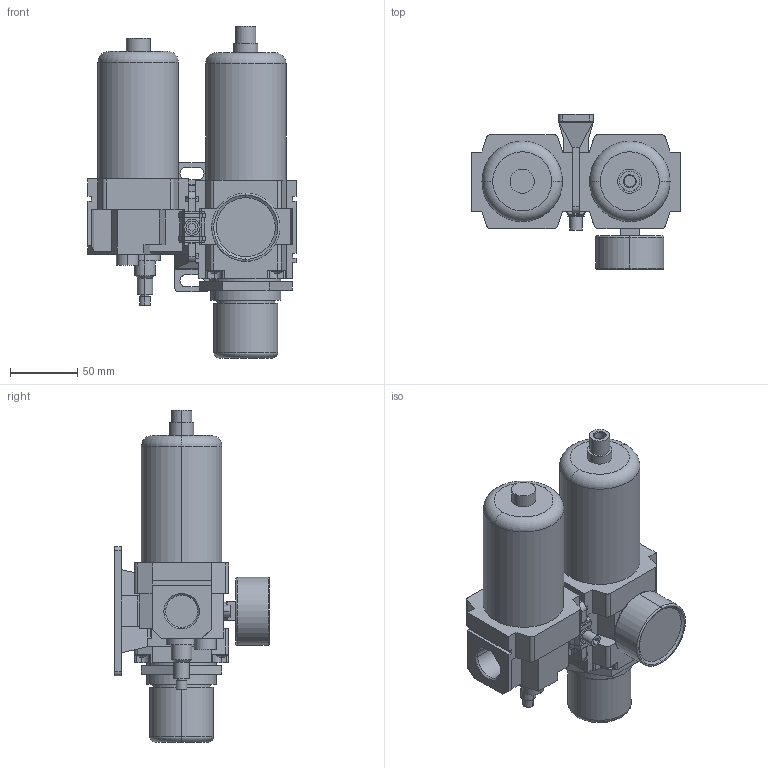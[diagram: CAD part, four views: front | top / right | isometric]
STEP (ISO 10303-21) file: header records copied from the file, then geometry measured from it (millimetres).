
FILE_DESCRIPTION (( 'STEP AP203' ), '1' );
FILE_NAME ('FRL400-06M-D.STEP', '2021-06-30T18:19:45', ( '' ), ( '' ), 'SwSTEP 2.0', 'SolidWorks 2019', '' );
FILE_SCHEMA (( 'CONFIG_CONTROL_DESIGN' ));
Length unit declared in the file: millimetre
Products named in the file (4): ST-400 - Copia; FRL400-06M-D; FR400-06M-D; L400-06
Assembly tree (3 placements, depth 2):
  FRL400-06M-D
    FR400-06M-D
    ST-400 - Copia
    L400-06
Bounding box: 155.2 x 115.5 x 247.5 mm (x, y, z)
Volume: 1262754.6 mm3; surface area: 157190.5 mm2
Topology: 13 solids, 13 shells, 568 faces, 1416 edges, 922 vertices
Faces by surface type: plane 368, cylinder 140, cone 42, torus 10, sphere 8
Entity records: 17374 total; most frequent: CARTESIAN_POINT 3042, DIRECTION 2964, ORIENTED_EDGE 2832, EDGE_CURVE 1416, AXIS2_PLACEMENT_3D 988, LINE 988, VECTOR 988, VERTEX_POINT 922
